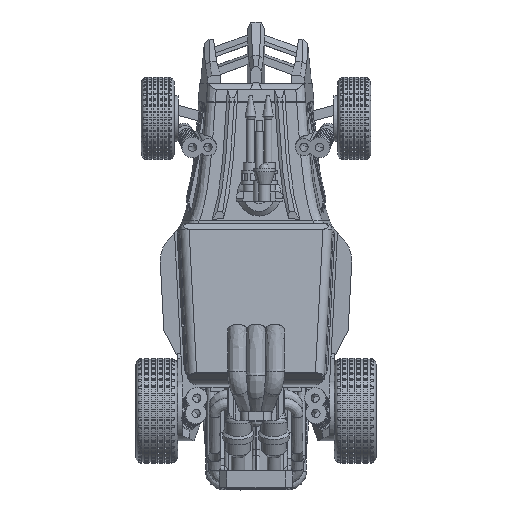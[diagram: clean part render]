
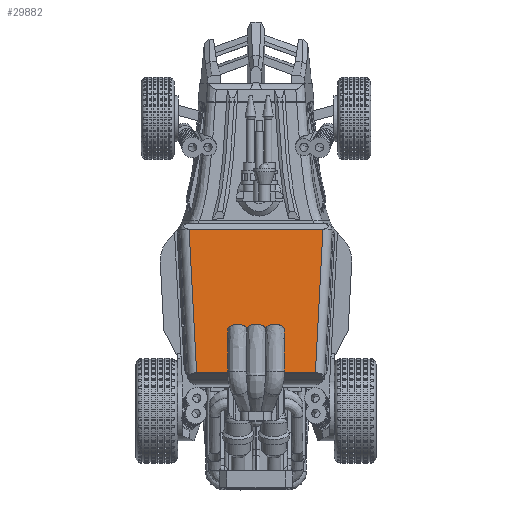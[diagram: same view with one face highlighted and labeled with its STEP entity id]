
A CAD part, top view. The second image highlights one B-rep face of the part: STEP entity #29882.
In plain terms, the highlighted planar face has unit normal (0, 0.087, 0.996).
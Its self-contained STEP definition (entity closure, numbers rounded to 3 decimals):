
#1085=B_SPLINE_CURVE_WITH_KNOTS('',3,(#145984,#145985,#145986,#145987,#145988,
#145989,#145990,#145991,#145992,#145993,#145994,#145995,#145996),
 .UNSPECIFIED.,.F.,.F.,(4,3,3,3,4),(0.,0.02,0.098,
0.413,1.),.UNSPECIFIED.);
#1086=B_SPLINE_CURVE_WITH_KNOTS('',1,(#146000,#146001),.UNSPECIFIED.,.F.,
 .F.,(2,2),(0.,1.),.UNSPECIFIED.);
#3716=PLANE('',#103303);
#8117=FACE_OUTER_BOUND('',#38139,.T.);
#14161=LINE('',#145981,#22305);
#14162=LINE('',#145998,#22306);
#22305=VECTOR('',#116891,1.);
#22306=VECTOR('',#116892,1.);
#29882=ADVANCED_FACE('',(#8117),#3716,.F.);
#38139=EDGE_LOOP('',(#49091,#49092,#49093,#49094));
#49091=ORIENTED_EDGE('',*,*,#85249,.T.);
#49092=ORIENTED_EDGE('',*,*,#85250,.T.);
#49093=ORIENTED_EDGE('',*,*,#85251,.F.);
#49094=ORIENTED_EDGE('',*,*,#85252,.T.);
#74572=VERTEX_POINT('',#145982);
#74573=VERTEX_POINT('',#145983);
#74574=VERTEX_POINT('',#145997);
#74575=VERTEX_POINT('',#145999);
#85249=EDGE_CURVE('',#74572,#74573,#14161,.T.);
#85250=EDGE_CURVE('',#74573,#74574,#1085,.T.);
#85251=EDGE_CURVE('',#74575,#74574,#14162,.T.);
#85252=EDGE_CURVE('',#74575,#74572,#1086,.T.);
#103303=AXIS2_PLACEMENT_3D('',#146002,#116893,#116894);
#116891=DIRECTION('',(0.052,-0.995,0.087));
#116892=DIRECTION('',(-0.052,-0.995,0.087));
#116893=DIRECTION('',(0.,-0.087,-0.996));
#116894=DIRECTION('',(0.,0.996,-0.087));
#145981=CARTESIAN_POINT('',(-3.351,-53.043,35.158));
#145982=CARTESIAN_POINT('',(-5.487,-12.287,31.593));
#145983=CARTESIAN_POINT('',(-3.553,-49.178,34.82));
#145984=CARTESIAN_POINT('',(-3.553,-49.178,34.82));
#145985=CARTESIAN_POINT('',(-3.353,-49.178,34.82));
#145986=CARTESIAN_POINT('',(-3.153,-49.178,34.82));
#145987=CARTESIAN_POINT('',(-2.953,-49.178,34.82));
#145988=CARTESIAN_POINT('',(-2.153,-49.178,34.82));
#145989=CARTESIAN_POINT('',(-1.353,-49.178,34.82));
#145990=CARTESIAN_POINT('',(-0.553,-49.178,34.82));
#145991=CARTESIAN_POINT('',(2.647,-49.178,34.82));
#145992=CARTESIAN_POINT('',(5.847,-49.178,34.82));
#145993=CARTESIAN_POINT('',(9.047,-49.178,34.82));
#145994=CARTESIAN_POINT('',(15.016,-49.178,34.82));
#145995=CARTESIAN_POINT('',(20.984,-49.178,34.82));
#145996=CARTESIAN_POINT('',(26.953,-49.178,34.82));
#145997=CARTESIAN_POINT('',(26.953,-49.178,34.82));
#145998=CARTESIAN_POINT('',(26.751,-53.043,35.158));
#145999=CARTESIAN_POINT('',(28.887,-12.287,31.593));
#146000=CARTESIAN_POINT('',(28.887,-12.287,31.593));
#146001=CARTESIAN_POINT('',(-5.487,-12.287,31.593));
#146002=CARTESIAN_POINT('',(11.7,-52.26,35.09));
